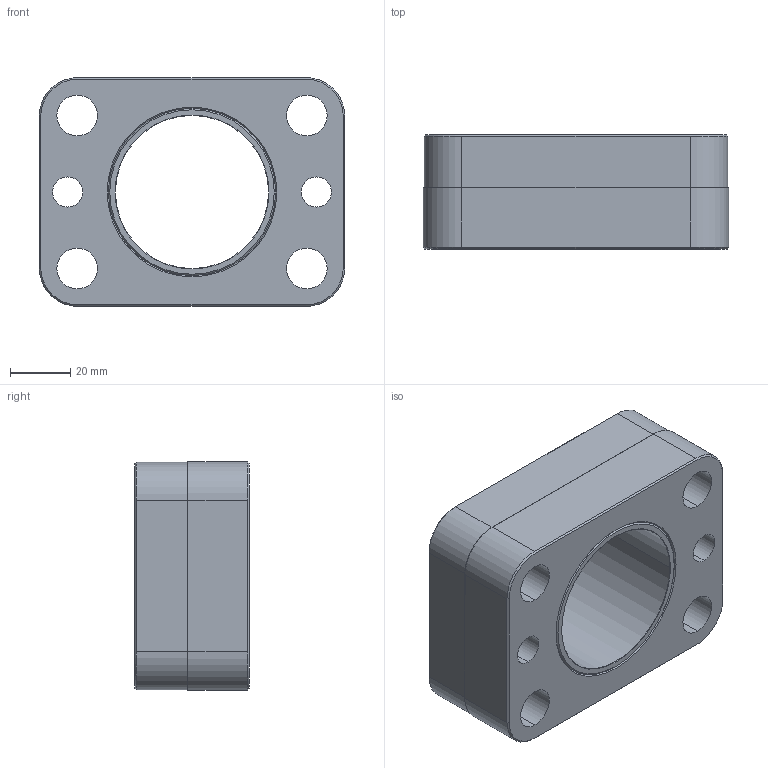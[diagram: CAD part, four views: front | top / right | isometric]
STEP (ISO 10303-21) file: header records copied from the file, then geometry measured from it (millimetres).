
FILE_DESCRIPTION (( 'STEP AP214' ), '1' );
FILE_NAME ('GK200-A-M-Base.STEP', '2010-11-16T13:44:08', ( ' ' ), ( '' ), 'SwSTEP 2.0', 'SolidWorks 2010', '' );
FILE_SCHEMA (( 'AUTOMOTIVE_DESIGN' ));
Length unit declared in the file: inch
Products named in the file (3): GK200-A-M-Base; Base-GK200-A_Base-GK200-A-M-NoText; Bushing-BU-2.0ID-1.485Long_Bushing-BU-2.0ID-1.485Long
Assembly tree (2 placements, depth 2):
  GK200-A-M-Base
    Base-GK200-A_Base-GK200-A-M-NoText
    Bushing-BU-2.0ID-1.485Long_Bushing-BU-2.0ID-1.485Long
Bounding box: 101.35 x 37.85 x 75.95 mm (x, y, z)
Volume: 169402.2 mm3; surface area: 50979.3 mm2
Topology: 2 solids, 2 shells, 91 faces, 206 edges, 124 vertices
Faces by surface type: cylinder 38, cone 28, plane 25
Entity records: 2800 total; most frequent: DIRECTION 498, CARTESIAN_POINT 426, ORIENTED_EDGE 412, EDGE_CURVE 206, AXIS2_PLACEMENT_3D 196, VERTEX_POINT 124, EDGE_LOOP 112, VECTOR 106
